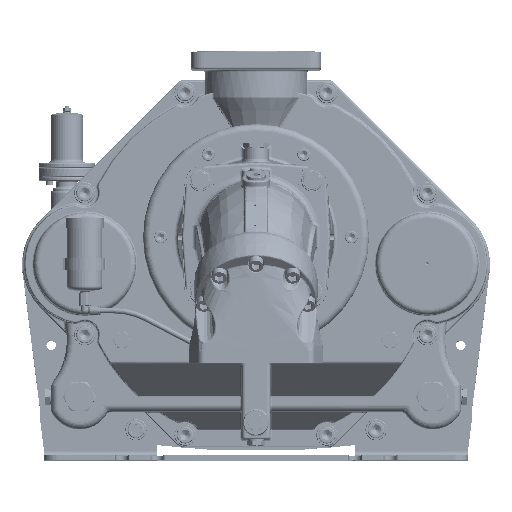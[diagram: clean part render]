
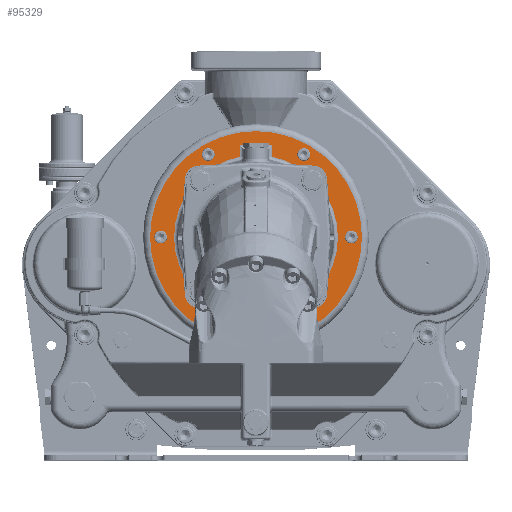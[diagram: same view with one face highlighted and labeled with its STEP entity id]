
A CAD part, top view. The second image highlights one B-rep face of the part: STEP entity #95329.
In plain terms, the highlighted planar face has unit normal (0, 0, 1) as drawn and (0, 1, 0) by its records, which use the part's own axes.
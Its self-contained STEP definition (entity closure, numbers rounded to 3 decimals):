
#13383=LINE('',#161356,#18621);
#13384=LINE('',#161360,#18622);
#13385=LINE('',#161361,#18623);
#18621=VECTOR('',#121848,10.);
#18622=VECTOR('',#121851,10.);
#18623=VECTOR('',#121852,10.);
#22974=FACE_BOUND('',#32076,.T.);
#22975=FACE_BOUND('',#32077,.T.);
#22976=FACE_BOUND('',#32078,.T.);
#22977=FACE_BOUND('',#32079,.T.);
#22978=FACE_BOUND('',#32080,.T.);
#22979=FACE_BOUND('',#32081,.T.);
#22980=FACE_BOUND('',#32082,.T.);
#26127=FACE_OUTER_BOUND('',#32075,.T.);
#32075=EDGE_LOOP('',(#76231));
#32076=EDGE_LOOP('',(#76232,#76233,#76234,#76235));
#32077=EDGE_LOOP('',(#76236));
#32078=EDGE_LOOP('',(#76237));
#32079=EDGE_LOOP('',(#76238));
#32080=EDGE_LOOP('',(#76239));
#32081=EDGE_LOOP('',(#76240));
#32082=EDGE_LOOP('',(#76241));
#37944=CIRCLE('',#104564,150.);
#37948=CIRCLE('',#104569,116.);
#37949=CIRCLE('',#104570,6.5);
#37950=CIRCLE('',#104571,6.5);
#37951=CIRCLE('',#104572,6.5);
#37952=CIRCLE('',#104573,6.5);
#37953=CIRCLE('',#104574,6.5);
#37954=CIRCLE('',#104575,6.5);
#44235=VERTEX_POINT('',#161346);
#44238=VERTEX_POINT('',#161354);
#44239=VERTEX_POINT('',#161355);
#44240=VERTEX_POINT('',#161357);
#44241=VERTEX_POINT('',#161359);
#44242=VERTEX_POINT('',#161362);
#44243=VERTEX_POINT('',#161364);
#44244=VERTEX_POINT('',#161366);
#44245=VERTEX_POINT('',#161368);
#44246=VERTEX_POINT('',#161370);
#44247=VERTEX_POINT('',#161372);
#55563=EDGE_CURVE('',#44235,#44235,#37944,.T.);
#55567=EDGE_CURVE('',#44238,#44239,#13383,.T.);
#55568=EDGE_CURVE('',#44240,#44238,#37948,.T.);
#55569=EDGE_CURVE('',#44241,#44240,#13384,.T.);
#55570=EDGE_CURVE('',#44239,#44241,#13385,.T.);
#55571=EDGE_CURVE('',#44242,#44242,#37949,.T.);
#55572=EDGE_CURVE('',#44243,#44243,#37950,.T.);
#55573=EDGE_CURVE('',#44244,#44244,#37951,.T.);
#55574=EDGE_CURVE('',#44245,#44245,#37952,.T.);
#55575=EDGE_CURVE('',#44246,#44246,#37953,.T.);
#55576=EDGE_CURVE('',#44247,#44247,#37954,.T.);
#76231=ORIENTED_EDGE('',*,*,#55563,.F.);
#76232=ORIENTED_EDGE('',*,*,#55567,.F.);
#76233=ORIENTED_EDGE('',*,*,#55568,.F.);
#76234=ORIENTED_EDGE('',*,*,#55569,.F.);
#76235=ORIENTED_EDGE('',*,*,#55570,.F.);
#76236=ORIENTED_EDGE('',*,*,#55571,.T.);
#76237=ORIENTED_EDGE('',*,*,#55572,.T.);
#76238=ORIENTED_EDGE('',*,*,#55573,.T.);
#76239=ORIENTED_EDGE('',*,*,#55574,.T.);
#76240=ORIENTED_EDGE('',*,*,#55575,.T.);
#76241=ORIENTED_EDGE('',*,*,#55576,.T.);
#91580=PLANE('',#104568);
#95329=ADVANCED_FACE('',(#26127,#22974,#22975,#22976,#22977,#22978,#22979,
#22980),#91580,.F.);
#104564=AXIS2_PLACEMENT_3D('',#161347,#121838,#121839);
#104568=AXIS2_PLACEMENT_3D('',#161353,#121846,#121847);
#104569=AXIS2_PLACEMENT_3D('',#161358,#121849,#121850);
#104570=AXIS2_PLACEMENT_3D('',#161363,#121853,#121854);
#104571=AXIS2_PLACEMENT_3D('',#161365,#121855,#121856);
#104572=AXIS2_PLACEMENT_3D('',#161367,#121857,#121858);
#104573=AXIS2_PLACEMENT_3D('',#161369,#121859,#121860);
#104574=AXIS2_PLACEMENT_3D('',#161371,#121861,#121862);
#104575=AXIS2_PLACEMENT_3D('',#161373,#121863,#121864);
#121838=DIRECTION('center_axis',(0.,-1.,0.));
#121839=DIRECTION('ref_axis',(-1.,0.,0.));
#121846=DIRECTION('center_axis',(0.,-1.,0.));
#121847=DIRECTION('ref_axis',(0.,0.,-1.));
#121848=DIRECTION('',(0.,0.,-1.));
#121849=DIRECTION('center_axis',(0.,1.,0.));
#121850=DIRECTION('ref_axis',(0.,0.,1.));
#121851=DIRECTION('',(0.,0.,1.));
#121852=DIRECTION('',(-1.,0.,0.));
#121853=DIRECTION('center_axis',(0.,-1.,0.));
#121854=DIRECTION('ref_axis',(1.,0.,0.));
#121855=DIRECTION('center_axis',(0.,-1.,0.));
#121856=DIRECTION('ref_axis',(1.,0.,0.));
#121857=DIRECTION('center_axis',(0.,-1.,0.));
#121858=DIRECTION('ref_axis',(1.,0.,0.));
#121859=DIRECTION('center_axis',(0.,-1.,0.));
#121860=DIRECTION('ref_axis',(1.,0.,0.));
#121861=DIRECTION('center_axis',(0.,-1.,0.));
#121862=DIRECTION('ref_axis',(1.,0.,0.));
#121863=DIRECTION('center_axis',(0.,-1.,0.));
#121864=DIRECTION('ref_axis',(1.,0.,0.));
#161346=CARTESIAN_POINT('',(0.,20.,-150.));
#161347=CARTESIAN_POINT('Origin',(0.,20.,0.));
#161353=CARTESIAN_POINT('Origin',(0.,20.,0.));
#161354=CARTESIAN_POINT('',(22.5,20.,-113.797));
#161355=CARTESIAN_POINT('',(22.5,20.,-130.));
#161356=CARTESIAN_POINT('',(22.5,20.,-62.5));
#161357=CARTESIAN_POINT('',(-22.5,20.,-113.797));
#161358=CARTESIAN_POINT('Origin',(0.,20.,0.));
#161359=CARTESIAN_POINT('',(-22.5,20.,-130.));
#161360=CARTESIAN_POINT('',(-22.5,20.,-62.5));
#161361=CARTESIAN_POINT('',(0.,20.,-130.));
#161362=CARTESIAN_POINT('',(61.,20.,-116.913));
#161363=CARTESIAN_POINT('Origin',(67.5,20.,-116.913));
#161364=CARTESIAN_POINT('',(61.,20.,116.913));
#161365=CARTESIAN_POINT('Origin',(67.5,20.,116.913));
#161366=CARTESIAN_POINT('',(-141.5,20.,0.));
#161367=CARTESIAN_POINT('Origin',(-135.,20.,0.));
#161368=CARTESIAN_POINT('',(-74.,20.,-116.913));
#161369=CARTESIAN_POINT('Origin',(-67.5,20.,-116.913));
#161370=CARTESIAN_POINT('',(-74.,20.,116.913));
#161371=CARTESIAN_POINT('Origin',(-67.5,20.,116.913));
#161372=CARTESIAN_POINT('',(128.5,20.,0.));
#161373=CARTESIAN_POINT('Origin',(135.,20.,0.));
